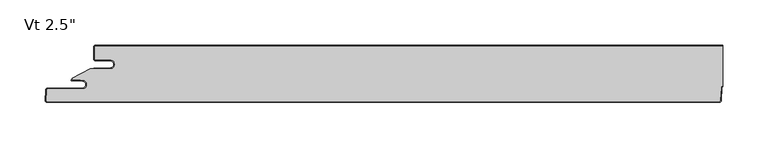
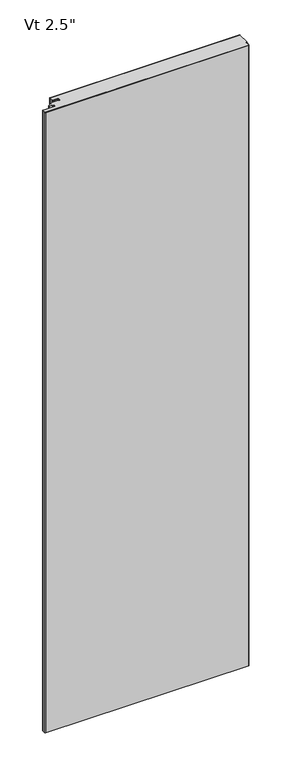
"""IFC4 building model written with IfcOpenShell, lengths in millimetres: plate geometry."""

from ifc_helpers import new_model, si_unit, point, frame_2d, origin, origin_with_axes, place, context, project, spatial, polyline, circle_curve, trimmed, segment, composite_curve, outline, extrude, source, transform, mapped, element, save


def plate_e788a3fa(model_context):
    return source(origin(), model_context, "Body", "SweptSolid", [
        extrude(outline(composite_curve([segment(polyline([(-329.9499998, -16.4625), (-345.8249998, -16.4625)]), True, "CONTINUOUS"), segment(trimmed(circle_curve(frame_2d((-345.8249998, -15.08125)), 1.38125), [point((-345.8249998, -16.4625))], [point((-347.2062498, -15.08125))], False, "CARTESIAN"), True, "CONTINUOUS"), segment(polyline([(-347.2062498, -15.08125), (-347.2062498, -2.38125)]), True, "CONTINUOUS"), segment(trimmed(circle_curve(frame_2d((-345.8249998, -2.38125)), 1.38125), [point((-347.2062498, -2.38125))], [point((-345.8249998, -1.0))], False, "CARTESIAN"), True, "CONTINUOUS"), segment(polyline([(-345.8249998, -1.0), (348.9999998, -1.0), (348.9999998, -45.091556)]), True, "CONTINUOUS"), segment(trimmed(circle_curve(frame_2d((349.5261348, -47.625)), 2.5875), [point((348.9999998, -45.091556))], [point((346.9421809, -47.4895807))], True, "CARTESIAN"), True, "CONTINUOUS"), segment(polyline([(346.9421809, -47.4895807), (346.2241179, -61.191039)]), True, "CONTINUOUS"), segment(trimmed(circle_curve(frame_2d((344.8447608, -61.11875)), 1.38125), [point((346.2241179, -61.191039))], [point((344.8447608, -62.5))], False, "CARTESIAN"), True, "CONTINUOUS"), segment(polyline([(344.8447608, -62.5), (-399.6862034, -62.5)]), True, "CONTINUOUS"), segment(trimmed(circle_curve(frame_2d((-399.6862034, -61.11875)), 1.38125), [point((-399.6862034, -62.5))], [point((-401.0655604, -61.046461))], False, "CARTESIAN"), True, "CONTINUOUS"), segment(polyline([(-401.0655604, -61.046461), (-400.483179, -49.933961)]), True, "CONTINUOUS"), segment(trimmed(circle_curve(frame_2d((-399.1038219, -50.00625)), 1.38125), [point((-400.483179, -49.933961))], [point((-399.1038219, -48.625))], False, "CARTESIAN"), True, "CONTINUOUS"), segment(polyline([(-399.1038219, -48.625), (-360.9205173, -48.625)]), True, "CONTINUOUS"), segment(trimmed(circle_curve(frame_2d((-360.9205173, -43.65625)), 4.96875), [point((-360.9205173, -48.625))], [point((-360.9205173, -38.6875))], True, "CARTESIAN"), True, "CONTINUOUS"), segment(polyline([(-360.9205173, -38.6875), (-362.5080173, -38.89375), (-362.5080173, -38.1), (-372.0187498, -38.1), (-372.0187498, -36.5326309), (-352.1323421, -26.4), (-329.9499998, -26.4)]), True, "CONTINUOUS"), segment(trimmed(circle_curve(frame_2d((-329.9499998, -21.43125)), 4.96875), [point((-329.9499998, -26.4))], [point((-329.9499998, -16.4625))], True, "CARTESIAN"), True, "CONTINUOUS")], self_intersect=False)), origin_with_axes(), (0.0, 0.0, 1.0), 2400.0),
        extrude(outline(composite_curve([segment(polyline([(-348.2062498, -25.4), (-329.9499998, -25.4)]), True, "CONTINUOUS"), segment(trimmed(circle_curve(frame_2d((-329.9499998, -21.43125)), 3.96875), [point((-329.9499998, -25.4))], [point((-329.9499998, -17.4625))], True, "CARTESIAN"), True, "CONTINUOUS"), segment(polyline([(-329.9499998, -17.4625), (-345.8249998, -17.4625)]), True, "CONTINUOUS"), segment(trimmed(circle_curve(frame_2d((-345.8249998, -15.08125)), 2.38125), [point((-345.8249998, -17.4625))], [point((-348.2062498, -15.08125))], False, "CARTESIAN"), True, "CONTINUOUS"), segment(polyline([(-348.2062498, -15.08125), (-348.2062498, -2.38125)]), True, "CONTINUOUS"), segment(trimmed(circle_curve(frame_2d((-345.8249998, -2.38125)), 2.38125), [point((-348.2062498, -2.38125))], [point((-345.8249998, 0.0))], False, "CARTESIAN"), True, "CONTINUOUS"), segment(polyline([(-345.8249998, 0.0), (348.9999998, 0.0), (348.9999998, -1.0), (-345.8249998, -1.0)]), True, "CONTINUOUS"), segment(trimmed(circle_curve(frame_2d((-345.8249998, -2.38125)), 1.38125), [point((-345.8249998, -1.0))], [point((-347.2062498, -2.38125))], True, "CARTESIAN"), True, "CONTINUOUS"), segment(polyline([(-347.2062498, -2.38125), (-347.2062498, -15.08125)]), True, "CONTINUOUS"), segment(trimmed(circle_curve(frame_2d((-345.8249998, -15.08125)), 1.38125), [point((-347.2062498, -15.08125))], [point((-345.8249998, -16.4625))], True, "CARTESIAN"), True, "CONTINUOUS"), segment(polyline([(-345.8249998, -16.4625), (-329.9499998, -16.4625)]), True, "CONTINUOUS"), segment(trimmed(circle_curve(frame_2d((-329.9499998, -21.43125)), 4.96875), [point((-329.9499998, -16.4625))], [point((-329.9499998, -26.4))], False, "CARTESIAN"), True, "CONTINUOUS"), segment(polyline([(-329.9499998, -26.4), (-348.2062498, -26.4), (-348.2062498, -25.4)]), True, "CONTINUOUS")], self_intersect=False)), origin_with_axes(), (0.0, 0.0, 1.0), 2400.0),
        extrude(outline(composite_curve([segment(polyline([(-372.2314548, -38.1), (-362.5080173, -38.1), (-362.5080173, -38.89375), (-360.9205173, -38.6875)]), True, "CONTINUOUS"), segment(trimmed(circle_curve(frame_2d((-360.9205173, -43.65625)), 4.96875), [point((-360.9205173, -38.6875))], [point((-360.9205173, -48.625))], False, "CARTESIAN"), True, "CONTINUOUS"), segment(polyline([(-360.9205173, -48.625), (-399.1038219, -48.625)]), True, "CONTINUOUS"), segment(trimmed(circle_curve(frame_2d((-399.1038219, -50.00625)), 1.38125), [point((-399.1038219, -48.625))], [point((-400.483179, -49.933961))], True, "CARTESIAN"), True, "CONTINUOUS"), segment(polyline([(-400.483179, -49.933961), (-401.0655604, -61.046461)]), True, "CONTINUOUS"), segment(trimmed(circle_curve(frame_2d((-399.6862034, -61.11875)), 1.38125), [point((-401.0655604, -61.046461))], [point((-399.6862034, -62.5))], True, "CARTESIAN"), True, "CONTINUOUS"), segment(polyline([(-399.6862034, -62.5), (344.8447608, -62.5)]), True, "CONTINUOUS"), segment(trimmed(circle_curve(frame_2d((344.8447608, -61.11875)), 1.38125), [point((344.8447608, -62.5))], [point((346.2241179, -61.191039))], True, "CARTESIAN"), True, "CONTINUOUS"), segment(polyline([(346.2241179, -61.191039), (346.9421809, -47.4895807)]), True, "CONTINUOUS"), segment(trimmed(circle_curve(frame_2d((349.5261348, -47.625)), 2.5875), [point((346.9421809, -47.4895807))], [point((348.9999998, -45.091556))], False, "CARTESIAN"), True, "CONTINUOUS"), segment(polyline([(348.9999998, -45.091556), (348.9999998, -46.1272222)]), True, "CONTINUOUS"), segment(trimmed(circle_curve(frame_2d((349.5261348, -47.625)), 1.5875), [point((348.9999998, -46.1272222))], [point((347.9408104, -47.5419167))], True, "CARTESIAN"), True, "CONTINUOUS"), segment(polyline([(347.9408104, -47.5419167), (347.2227474, -61.243375)]), True, "CONTINUOUS"), segment(trimmed(circle_curve(frame_2d((344.8447608, -61.11875)), 2.38125), [point((347.2227474, -61.243375))], [point((344.8447608, -63.5))], False, "CARTESIAN"), True, "CONTINUOUS"), segment(polyline([(344.8447608, -63.5), (-399.6862034, -63.5)]), True, "CONTINUOUS"), segment(trimmed(circle_curve(frame_2d((-399.6862034, -61.11875)), 2.38125), [point((-399.6862034, -63.5))], [point((-402.0641899, -60.994125))], False, "CARTESIAN"), True, "CONTINUOUS"), segment(polyline([(-402.0641899, -60.994125), (-401.4818085, -49.881625)]), True, "CONTINUOUS"), segment(trimmed(circle_curve(frame_2d((-399.1038219, -50.00625)), 2.38125), [point((-401.4818085, -49.881625))], [point((-399.1038219, -47.625))], False, "CARTESIAN"), True, "CONTINUOUS"), segment(polyline([(-399.1038219, -47.625), (-360.9205173, -47.625)]), True, "CONTINUOUS"), segment(trimmed(circle_curve(frame_2d((-360.9205173, -43.65625)), 3.96875), [point((-360.9205173, -47.625))], [point((-360.9205173, -39.6875))], True, "CARTESIAN"), True, "CONTINUOUS"), segment(polyline([(-360.9205173, -39.6875), (-372.2314548, -39.6875)]), True, "CONTINUOUS"), segment(trimmed(circle_curve(frame_2d((-372.2314548, -38.89375)), 0.79375), [point((-372.2314548, -39.6875))], [point((-372.2314548, -38.1))], False, "CARTESIAN"), True, "CONTINUOUS")], self_intersect=False)), origin_with_axes(), (0.0, 0.0, 1.0), 2400.0),
    ])


if __name__ == "__main__":
    model = new_model("IFC4")
    model_context = context("Model", 3, world=origin())
    ifc_project = project(units=[si_unit("LENGTHUNIT", "METRE", prefix="MILLI")], contexts=[model_context])
    site = spatial("IfcSite", under=ifc_project)
    building = spatial("IfcBuilding", under=site)
    placement = place(None, origin())
    plate_shape = plate_e788a3fa(model_context)
    element("IfcPlate", 1, ObjectType="KIP-30-DWHR-R19-CP-Vt-F : Vt 2.5\"", at=placement, inside=building, context=model_context, shape_type="MappedRepresentation", body=[
        mapped(plate_shape, transform((0.0, 0.0, 0.0), x_axis=(1.0, 0.0, 0.0), y_axis=(0.0, 1.0, 0.0), z_axis=(0.0, 0.0, 1.0))),
    ])
    save(model, "model.ifc")
